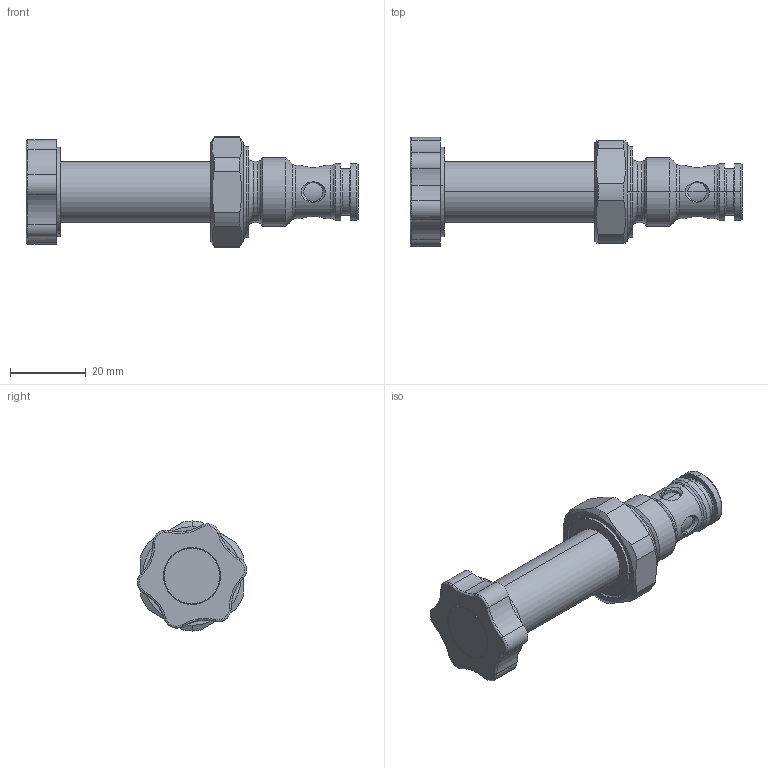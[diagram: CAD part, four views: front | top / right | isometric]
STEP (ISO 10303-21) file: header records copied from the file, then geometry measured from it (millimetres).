
FILE_DESCRIPTION (( 'STEP AP214' ), '1' );
FILE_NAME ('SVSPM18-X5.STEP', '2016-02-05T06:48:51', ( '' ), ( '' ), 'SwSTEP 2.0', 'SolidWorks 2014', '' );
FILE_SCHEMA (( 'AUTOMOTIVE_DESIGN' ));
Length unit declared in the file: millimetre
Products named in the file (2): SVSPM18-X5
Bounding box: 87.5 x 28.74 x 29 mm (x, y, z)
Volume: 23746.4 mm3; surface area: 7188.1 mm2
Topology: 1 solids, 1 shells, 140 faces, 318 edges, 194 vertices
Faces by surface type: cylinder 63, torus 31, cone 26, plane 20
Entity records: 5949 total; most frequent: CARTESIAN_POINT 1198, DIRECTION 759, ORIENTED_EDGE 636, AXIS2_PLACEMENT_3D 333, EDGE_CURVE 318, VERTEX_POINT 194, CIRCLE 191, EDGE_LOOP 154
